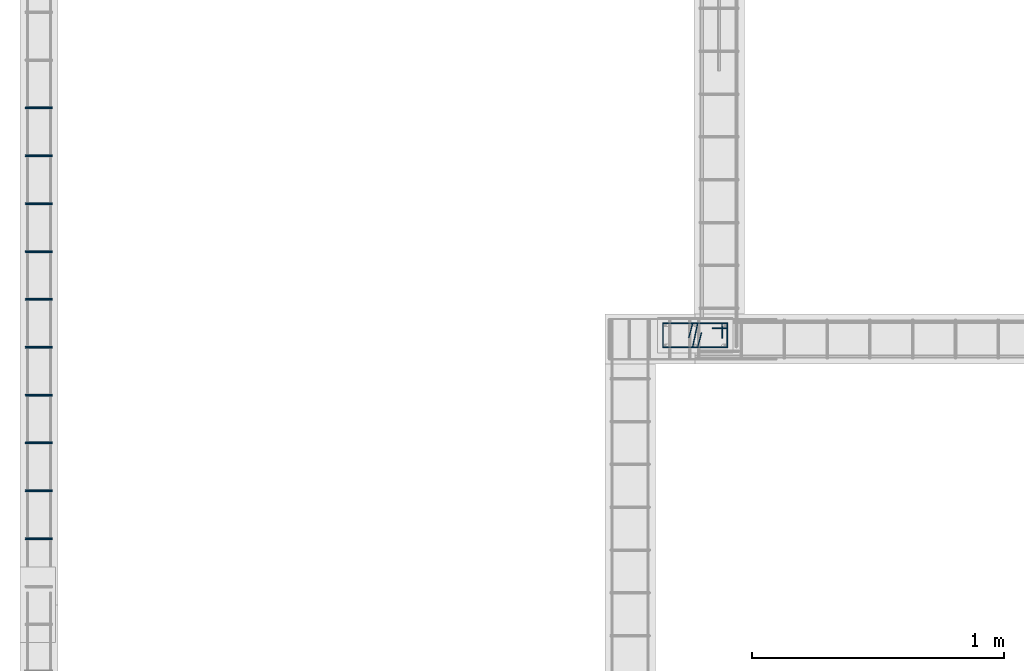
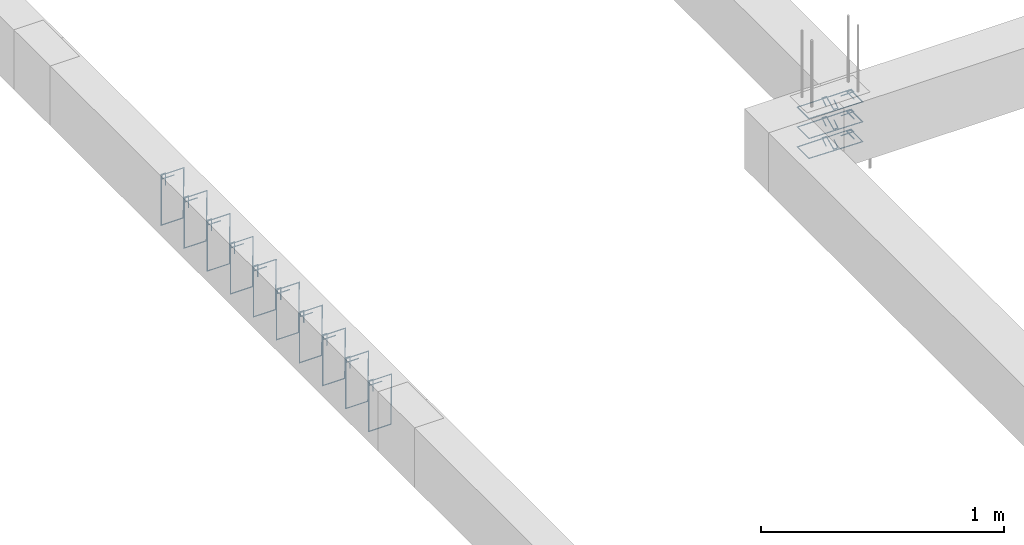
# One storey, part 28 of 150: 16 reinforcing bars.
"""IFC4 building model written with IfcOpenShell, lengths in centimetres."""

from ifc_helpers import new_model, entity, si_unit, derived_unit, frame, origin_with_axes, place, context, project, spatial, source, transform, mapped, element, save


model = new_model("IFC4")

# Units and contexts
model_context = context("Model", 3, precision=1e-05, world=origin_with_axes(), identifier="Body")
ifc_project = project(units=[si_unit("LENGTHUNIT", "METRE", prefix="CENTI"), si_unit("VOLUMEUNIT", "CUBIC_METRE"), si_unit("AREAUNIT", "SQUARE_METRE"), si_unit("POWERUNIT", "WATT"), si_unit("LUMINOUSFLUXUNIT", "LUMEN"), si_unit("ELECTRICCURRENTUNIT", "AMPERE"), si_unit("PRESSUREUNIT", "PASCAL", prefix="KILO"), si_unit("MASSUNIT", "GRAM", prefix="KILO"), si_unit("PLANEANGLEUNIT", "RADIAN"), derived_unit("VOLUMETRICFLOWRATEUNIT", [(si_unit("LENGTHUNIT", "METRE"), 3), (si_unit("TIMEUNIT", "SECOND"), -1)])], contexts=[model_context])

# Site, building, storey
site_placement = place(None, frame((-4000.0, 0.0, 0.0), z_axis=(0.0, 0.0, 1.0), x_axis=(1.0, 0.0, 0.0)))
site = spatial("IfcSite", under=ifc_project, at=site_placement, Name="PADRÃO")
building_placement = place(site_placement, frame((0.0, 0.0, -14.0)))
building = spatial("IfcBuilding", under=site, at=building_placement, Name="CRECHE PRÉ-ESCOLA TIPO 2")
placement = place(building_placement, origin_with_axes())
storey_placement = place(placement, frame((0.0, 0.0, 30.0), z_axis=(0.0, 0.0, 1.0), x_axis=(1.0, 0.0, 0.0)))
storey = spatial("IfcBuildingStorey", under=building, at=storey_placement, Name="VIGA BALDRAME", CompositionType="ELEMENT", Elevation=16.0)

# Reinforcing bars
shared_shape_1 = source(origin_with_axes(), model_context, "Body", "AdvancedSweptSolid", [
    entity("IfcSweptDiskSolid", entity("IfcCompositeCurve", [entity("IfcCompositeCurveSegment", "CONTINUOUS", True, entity("IfcPolyline", [entity("IfcCartesianPoint", [4.25, 21.75, 0.0]), entity("IfcCartesianPoint", [4.25, 27.75, 0.0])])), entity("IfcCompositeCurveSegment", "CONTINUOUS", True, entity("IfcPolyline", [entity("IfcCartesianPoint", [4.25, 27.75, 0.0]), entity("IfcCartesianPoint", [2.25, 27.75, 0.0])])), entity("IfcCompositeCurveSegment", "CONTINUOUS", True, entity("IfcPolyline", [entity("IfcCartesianPoint", [2.25, 27.75, 0.0]), entity("IfcCartesianPoint", [2.25, 2.25, 0.0])])), entity("IfcCompositeCurveSegment", "CONTINUOUS", True, entity("IfcPolyline", [entity("IfcCartesianPoint", [2.25, 2.25, 0.0]), entity("IfcCartesianPoint", [11.75, 2.25, 0.0])])), entity("IfcCompositeCurveSegment", "CONTINUOUS", True, entity("IfcPolyline", [entity("IfcCartesianPoint", [11.75, 2.25, 0.0]), entity("IfcCartesianPoint", [11.75, 27.75, -0.5])])), entity("IfcCompositeCurveSegment", "CONTINUOUS", True, entity("IfcPolyline", [entity("IfcCartesianPoint", [11.75, 27.75, -0.5]), entity("IfcCartesianPoint", [2.25, 27.75, -0.5])])), entity("IfcCompositeCurveSegment", "CONTINUOUS", True, entity("IfcPolyline", [entity("IfcCartesianPoint", [2.25, 27.75, -0.5]), entity("IfcCartesianPoint", [2.25, 25.75, -0.5])])), entity("IfcCompositeCurveSegment", "CONTINUOUS", True, entity("IfcPolyline", [entity("IfcCartesianPoint", [2.25, 25.75, -0.5]), entity("IfcCartesianPoint", [8.25, 25.75, -0.5])]))], False), 0.25),
])
for number, where, z_axis, x_axis, name in (
    (1, (254.5, 1308.5, -5.0), (0.0, 0.0, 1.0), (0.0, -1.0, 0.0), "P106 - Estribo"),
    (2, (254.5, 1308.5, -15.0), (0.0, 0.0, 1.0), (0.0, -1.0, 0.0), "P106 - Estribo"),
    (3, (254.5, 1308.5, -25.0), (0.0, 0.0, 1.0), (0.0, -1.0, 0.0), "P106 - Estribo"),
):
    element("IfcReinforcingBar", number, at=place(storey_placement, frame(where, z_axis=z_axis, x_axis=x_axis)), inside=storey, Name=name, BarLength=0.0, CrossSectionArea=1.9634954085e-05, NominalDiameter=0.5, PredefinedType="MAIN", context=model_context, shape_type="MappedRepresentation", body=[
        mapped(shared_shape_1, transform((0.0, 0.0, 0.0), scale=1.0)),
    ])
shared_shape_2 = source(origin_with_axes(), model_context, "Body", "AdvancedSweptSolid", [
    entity("IfcSweptDiskSolid", entity("IfcCompositeCurve", [entity("IfcCompositeCurveSegment", "CONTINUOUS", True, entity("IfcPolyline", [entity("IfcCartesianPoint", [5.88627916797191, 17.5449050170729, 0.0]), entity("IfcCartesianPoint", [11.75, 16.0, 0.0])])), entity("IfcCompositeCurveSegment", "CONTINUOUS", True, entity("IfcPolyline", [entity("IfcCartesianPoint", [11.75, 16.0, 0.0]), entity("IfcCartesianPoint", [11.75, 14.0, 0.0])])), entity("IfcCompositeCurveSegment", "CONTINUOUS", True, entity("IfcPolyline", [entity("IfcCartesianPoint", [11.75, 14.0, 0.0]), entity("IfcCartesianPoint", [2.25, 16.0, 0.0])])), entity("IfcCompositeCurveSegment", "CONTINUOUS", True, entity("IfcPolyline", [entity("IfcCartesianPoint", [2.25, 16.0, 0.0]), entity("IfcCartesianPoint", [2.25, 14.0, 0.0])])), entity("IfcCompositeCurveSegment", "CONTINUOUS", True, entity("IfcPolyline", [entity("IfcCartesianPoint", [2.25, 14.0, 0.0]), entity("IfcCartesianPoint", [8.11372083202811, 12.4550949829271, 0.0])]))], False), 0.25),
])
for number, where, z_axis, x_axis, name in (
    (4, (254.5, 1308.5, -4.5), (0.0, 0.0, 1.0), (0.0, -1.0, 0.0), "P106 - Grampo"),
    (5, (254.5, 1308.5, -24.5), (0.0, 0.0, 1.0), (0.0, -1.0, 0.0), "P106 - Grampo"),
    (6, (254.5, 1308.5, -14.5), (0.0, 0.0, 1.0), (0.0, -1.0, 0.0), "P106 - Grampo"),
):
    element("IfcReinforcingBar", number, at=place(storey_placement, frame(where, z_axis=z_axis, x_axis=x_axis)), inside=storey, Name=name, BarLength=0.0, CrossSectionArea=1.9634954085e-05, NominalDiameter=0.5, PredefinedType="MAIN", context=model_context, shape_type="MappedRepresentation", body=[
        mapped(shared_shape_2, transform((0.0, 0.0, 0.0), scale=1.0)),
    ])
shared_shape_3 = source(origin_with_axes(), model_context, "Body", "AdvancedSweptSolid", [
    entity("IfcSweptDiskSolid", entity("IfcCompositeCurve", [entity("IfcCompositeCurveSegment", "CONTINUOUS", True, entity("IfcPolyline", [entity("IfcCartesianPoint", [2.0, -6.0, 0.0]), entity("IfcCartesianPoint", [2.0, 0.0, 0.0])])), entity("IfcCompositeCurveSegment", "CONTINUOUS", True, entity("IfcPolyline", [entity("IfcCartesianPoint", [2.0, 0.0, 0.0]), entity("IfcCartesianPoint", [0.0, 0.0, 0.0])])), entity("IfcCompositeCurveSegment", "CONTINUOUS", True, entity("IfcPolyline", [entity("IfcCartesianPoint", [0.0, 0.0, 0.0]), entity("IfcCartesianPoint", [0.0, -25.5, 0.0])])), entity("IfcCompositeCurveSegment", "CONTINUOUS", True, entity("IfcPolyline", [entity("IfcCartesianPoint", [0.0, -25.5, 0.0]), entity("IfcCartesianPoint", [10.5, -25.5, 0.0])])), entity("IfcCompositeCurveSegment", "CONTINUOUS", True, entity("IfcPolyline", [entity("IfcCartesianPoint", [10.5, -25.5, 0.0]), entity("IfcCartesianPoint", [10.5, 0.0, 0.5])])), entity("IfcCompositeCurveSegment", "CONTINUOUS", True, entity("IfcPolyline", [entity("IfcCartesianPoint", [10.5, 0.0, 0.5]), entity("IfcCartesianPoint", [0.0, 0.0, 0.5])])), entity("IfcCompositeCurveSegment", "CONTINUOUS", True, entity("IfcPolyline", [entity("IfcCartesianPoint", [0.0, 0.0, 0.5]), entity("IfcCartesianPoint", [0.0, -2.0, 0.5])])), entity("IfcCompositeCurveSegment", "CONTINUOUS", True, entity("IfcPolyline", [entity("IfcCartesianPoint", [0.0, -2.0, 0.5]), entity("IfcCartesianPoint", [6.0, -2.0, 0.5])]))], False), 0.25),
])
for number, where, z_axis, x_axis, name in (
    (7, (3.75, 1259.0, -2.25), (0.0, -1.0, 0.0), (1.0, 0.0, 0.0), "V159 - Estribo"),
    (8, (3.75, 1221.0, -2.25), (0.0, -1.0, 0.0), (1.0, 0.0, 0.0), "V159 - Estribo"),
    (9, (3.75, 1240.0, -2.25), (0.0, -1.0, 0.0), (1.0, 0.0, 0.0), "V159 - Estribo"),
    (10, (3.75, 1278.0, -2.25), (0.0, -1.0, 0.0), (1.0, 0.0, 0.0), "V159 - Estribo"),
    (11, (3.75, 1297.0, -2.25), (0.0, -1.0, 0.0), (1.0, 0.0, 0.0), "V159 - Estribo"),
    (12, (3.75, 1316.0, -2.25), (0.0, -1.0, 0.0), (1.0, 0.0, 0.0), "V159 - Estribo"),
    (13, (3.75, 1335.0, -2.25), (0.0, -1.0, 0.0), (1.0, 0.0, 0.0), "V159 - Estribo"),
    (14, (3.75, 1354.0, -2.25), (0.0, -1.0, 0.0), (1.0, 0.0, 0.0), "V159 - Estribo"),
    (15, (3.75, 1373.0, -2.25), (0.0, -1.0, 0.0), (1.0, 0.0, 0.0), "V159 - Estribo"),
    (16, (3.75, 1392.0, -2.25), (0.0, -1.0, 0.0), (1.0, 0.0, 0.0), "V159 - Estribo"),
):
    element("IfcReinforcingBar", number, at=place(storey_placement, frame(where, z_axis=z_axis, x_axis=x_axis)), inside=storey, Name=name, BarLength=0.0, CrossSectionArea=1.9634954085e-05, NominalDiameter=0.5, PredefinedType="MAIN", context=model_context, shape_type="MappedRepresentation", body=[
        mapped(shared_shape_3, transform((0.0, 0.0, 0.0), scale=1.0)),
    ])

save(model, "model.ifc")
